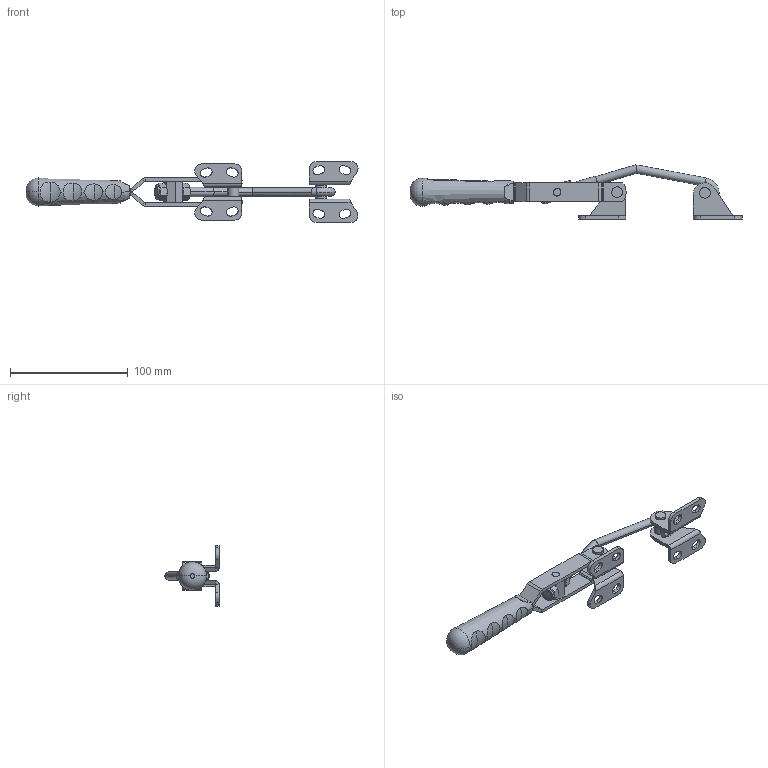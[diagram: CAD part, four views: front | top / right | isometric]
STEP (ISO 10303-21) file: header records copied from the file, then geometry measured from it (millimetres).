
FILE_DESCRIPTION (( 'STEP AP203' ), '1' );
FILE_NAME ('13308_Y.STEP', '2022-12-02T05:49:14', ( '' ), ( '' ), 'SwSTEP 2.0', 'SolidWorks 2023', '' );
FILE_SCHEMA (( 'CONFIG_CONTROL_DESIGN' ));
Length unit declared in the file: millimetre
Products named in the file (14): Aynalama13308 HAREKET kOLU_Varsayılan; 13308_M8 Somun_Varsayılan; 13308 HAREKET kOLU_Varsayılan; Y GÖVDE_Varsayılan; YENİ_C90.step_Varsayılan; 6x22_5_PERÇİN_Varsayılan; 13308 KANCA TUTUCU_Varsayılan; 13308_Burc_10x6x12_Varsayılan; 13308 Y HK GÖVDE_Varsayılan; 6x24_5_PERÇİN_Varsayılan; 13308_Y; 13308_M8 FİBERLİ SOMUN_Varsayılan; 13308_C_KANCA_Varsayılan; 13308_Burc_10x6x8_Varsayılan
Assembly tree (13 placements, depth 2):
  13308_Y
    13308 HAREKET kOLU_Varsayılan
    Aynalama13308 HAREKET kOLU_Varsayılan
    13308 KANCA TUTUCU_Varsayılan
    13308_M8 Somun_Varsayılan
    13308_M8 FİBERLİ SOMUN_Varsayılan
    13308_C_KANCA_Varsayılan
    6x24_5_PERÇİN_Varsayılan
    13308_Burc_10x6x8_Varsayılan
    6x22_5_PERÇİN_Varsayılan
    13308_Burc_10x6x12_Varsayılan
    YENİ_C90.step_Varsayılan
    13308 Y HK GÖVDE_Varsayılan
    Y GÖVDE_Varsayılan
Bounding box: 282.52 x 46.19 x 51.73 mm (x, y, z)
Volume: 66626.1 mm3; surface area: 44738.3 mm2
Topology: 15 solids, 15 shells, 567 faces, 1382 edges, 861 vertices
Faces by surface type: plane 321, cylinder 164, cone 38, torus 28, bspline 12, sphere 4
Entity records: 19266 total; most frequent: CARTESIAN_POINT 4318, DIRECTION 2848, ORIENTED_EDGE 2764, EDGE_CURVE 1382, AXIS2_PLACEMENT_3D 995, VERTEX_POINT 861, VECTOR 858, LINE 858
